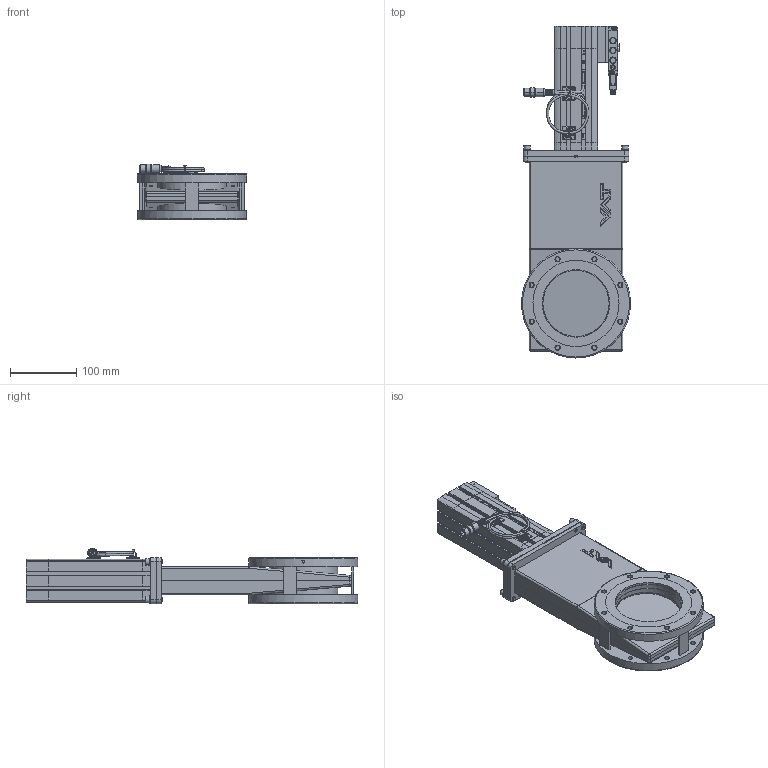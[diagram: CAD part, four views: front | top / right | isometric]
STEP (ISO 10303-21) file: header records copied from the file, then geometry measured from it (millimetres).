
FILE_DESCRIPTION(/* description */ (''),/* implementation_level */ '2;1');
FILE_NAME(/* name */ '1165555550_203.stp',/* time_stamp */ '2022-03-10T17:39:58+01:00',/* author */ (''),/* organization */ (''),/* preprocessor_version */ 'ST-DEVELOPER v18.1',/* originating_system */ 'SIEMENS PLM Software NX 1973',/* authorisation */ '');
FILE_SCHEMA (('AP203_CONFIGURATION_CONTROLLED_3D_DESIGN_OF_MECHANICAL_PARTS_AND_ASSEMBLIES_MIM_LF { 1 0 10303 403 2 1 2}'));
Length unit declared in the file: millimetre
Products named in the file (26): 251261.12_34962ID; 251260.4_34956ID; 251261.12_34993ID; 1134546; 343001.1; 1041281; 938048; 408099; 990050; 487660; 411636_35012ID; 251257.9_35003ID; 251262.4; 251259.6_35006ID; 251259.6_34967ID; 251257.9_34992ID; 1085547; 984070; 218189; n-6134-408; 250214.4; 1004825_NX-ARRAGMNTOpen; 1081830_NX-ARRAGMNTDN100, Standard v3 ; 251258.9; 251256.28; 1004849
Assembly tree (38 placements, depth 4):
  1004849
    251256.28
      251257.9_34992ID
      251259.6_34967ID
      251259.6_35006ID
      251262.4  x3
      251258.9
        251261.12_34993ID
        251260.4_34956ID
        251261.12_34962ID
      251257.9_35003ID
    250214.4
    n-6134-408  x4
    218189  x4
    1081830_NX-ARRAGMNTDN100, Standard v3 
      411636_35012ID
      487660  x2
      990050
      408099  x2
    1004825_NX-ARRAGMNTOpen
      938048
      1041281
      343001.1  x2
      1134546
    984070  x2
    1085547  x2
Bounding box: 164.8 x 501.5 x 84.4 mm (x, y, z)
Volume: 1790796.4 mm3; surface area: 505822.1 mm2
Topology: 52 solids, 54 shells, 5658 faces, 14315 edges, 8755 vertices
Faces by surface type: plane 2421, cylinder 1765, bspline 648, cone 311, torus 277, sphere 175, extrusion 49, revolution 12
Full cylindrical faces by diameter (mm): 1.041 x3, 1.5 x1, 2 x2, 2.46 x2, 2.5 x3, 2.9 x2, 3 x6, 3.2 x4, 3.4 x4, 3.75 x1, 3.8 x1, 3.9 x1, 4 x4, 4.5 x6, 4.96 x4, 5 x8, 5.05 x1, 5.1 x2, 5.22 x4, 5.5 x4, 5.6 x1, 5.8 x1, 6 x8, 6.2 x3, 6.4 x5, 6.5 x4, 6.54 x1, 6.6 x4, 6.8 x16, 6.9 x1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
Entity records: 184183 total; most frequent: CARTESIAN_POINT 62582, ORIENTED_EDGE 24846, DIRECTION 23337, EDGE_CURVE 12423, AXIS2_PLACEMENT_3D 8402, VERTEX_POINT 7840, VECTOR 6525, LINE 6476
